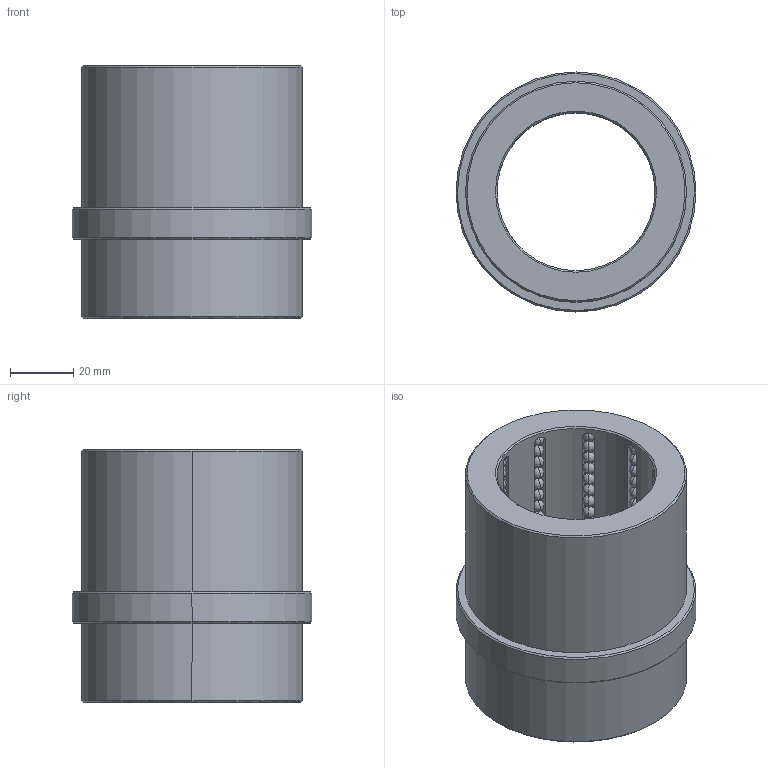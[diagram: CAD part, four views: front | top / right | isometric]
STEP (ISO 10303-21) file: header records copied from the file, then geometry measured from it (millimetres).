
FILE_DESCRIPTION(('CATIA V5 STEP Exchange'),'2;1');
FILE_NAME('C:\Users\Raffaele\Desktop\3D BOLEX\3D FILES CF BOLEX\2-BUSH REF 802\B8025055.stp','2019-06-19T13:52:47+00:00',('none'),('none'),'CATIA Version 5 Release 20 GA (IN-10)','CATIA V5 STEP AP203','none');
FILE_SCHEMA(('CONFIG_CONTROL_DESIGN'));
Length unit declared in the file: millimetre
Products named in the file (1): B8025055
Bounding box: 76 x 76 x 80 mm (x, y, z)
Volume: 151864.7 mm3; surface area: 50344.8 mm2
Topology: 181 solids, 181 shells, 806 faces, 2370 edges, 496 vertices
Faces by surface type: sphere 720, plane 34, cylinder 28, cone 24
Entity records: 15044 total; most frequent: CARTESIAN_POINT 2991, DIRECTION 2493, ORIENTED_EDGE 1860, AXIS2_PLACEMENT_3D 1574, EDGE_CURVE 930, EDGE_LOOP 818, ADVANCED_FACE 806, FACE_OUTER_BOUND 806
